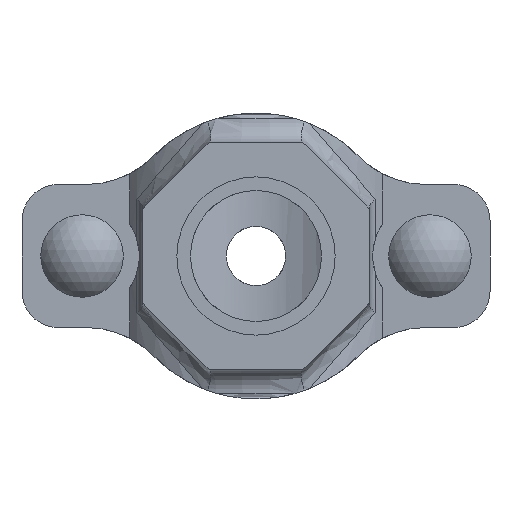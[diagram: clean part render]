
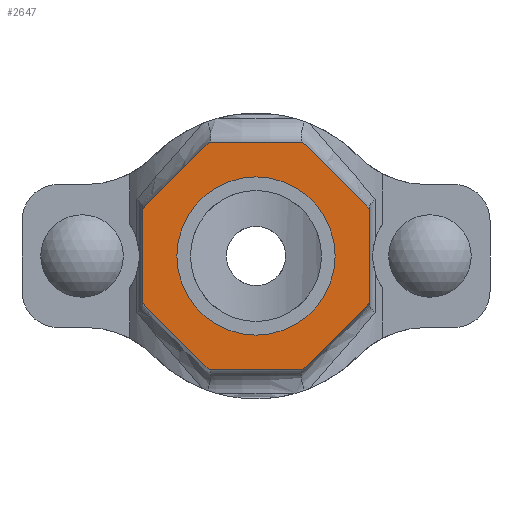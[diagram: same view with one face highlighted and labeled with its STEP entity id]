
A CAD part, front view. The second image highlights one B-rep face of the part: STEP entity #2647.
In plain terms, the highlighted planar face has unit normal (0, -1, 0) as drawn and (0, 1, 0) by its records, which use the part's own axes.
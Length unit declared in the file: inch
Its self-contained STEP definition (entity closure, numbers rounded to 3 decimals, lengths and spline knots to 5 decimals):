
#207=FACE_BOUND('',#488,.T.);
#331=FACE_OUTER_BOUND('',#487,.T.);
#487=EDGE_LOOP('',(#2233,#2234,#2235,#2236,#2237,#2238,#2239,#2240));
#488=EDGE_LOOP('',(#2241));
#628=LINE('',#4905,#816);
#631=LINE('',#4910,#819);
#633=LINE('',#4914,#821);
#635=LINE('',#4918,#823);
#671=LINE('',#5217,#859);
#673=LINE('',#5221,#861);
#675=LINE('',#5225,#863);
#677=LINE('',#5228,#865);
#816=VECTOR('',#3407,0.3937);
#819=VECTOR('',#3412,0.3937);
#821=VECTOR('',#3416,0.3937);
#823=VECTOR('',#3420,0.3937);
#859=VECTOR('',#3550,0.3937);
#861=VECTOR('',#3554,0.3937);
#863=VECTOR('',#3558,0.3937);
#865=VECTOR('',#3562,0.3937);
#952=CIRCLE('',#2917,0.83);
#1151=VERTEX_POINT('',#4902);
#1152=VERTEX_POINT('',#4904);
#1153=VERTEX_POINT('',#4908);
#1154=VERTEX_POINT('',#4912);
#1155=VERTEX_POINT('',#4916);
#1183=VERTEX_POINT('',#5078);
#1205=VERTEX_POINT('',#5216);
#1206=VERTEX_POINT('',#5220);
#1207=VERTEX_POINT('',#5224);
#1479=EDGE_CURVE('',#1152,#1151,#628,.T.);
#1482=EDGE_CURVE('',#1151,#1153,#631,.T.);
#1484=EDGE_CURVE('',#1153,#1154,#633,.T.);
#1486=EDGE_CURVE('',#1154,#1155,#635,.T.);
#1527=EDGE_CURVE('',#1183,#1183,#952,.T.);
#1557=EDGE_CURVE('',#1205,#1152,#671,.T.);
#1559=EDGE_CURVE('',#1206,#1205,#673,.T.);
#1561=EDGE_CURVE('',#1207,#1206,#675,.T.);
#1563=EDGE_CURVE('',#1155,#1207,#677,.T.);
#2233=ORIENTED_EDGE('',*,*,#1563,.T.);
#2234=ORIENTED_EDGE('',*,*,#1561,.T.);
#2235=ORIENTED_EDGE('',*,*,#1559,.T.);
#2236=ORIENTED_EDGE('',*,*,#1557,.T.);
#2237=ORIENTED_EDGE('',*,*,#1479,.T.);
#2238=ORIENTED_EDGE('',*,*,#1482,.T.);
#2239=ORIENTED_EDGE('',*,*,#1484,.T.);
#2240=ORIENTED_EDGE('',*,*,#1486,.T.);
#2241=ORIENTED_EDGE('',*,*,#1527,.T.);
#2378=PLANE('',#2938);
#2647=ADVANCED_FACE('',(#331,#207),#2378,.T.);
#2917=AXIS2_PLACEMENT_3D('',#5079,#3500,#3501);
#2938=AXIS2_PLACEMENT_3D('',#5229,#3563,#3564);
#3407=DIRECTION('',(0.,0.,1.));
#3412=DIRECTION('',(0.707,0.,0.707));
#3416=DIRECTION('',(1.,0.,0.));
#3420=DIRECTION('',(0.707,0.,-0.707));
#3500=DIRECTION('center_axis',(0.,-1.,0.));
#3501=DIRECTION('ref_axis',(-1.,0.,0.));
#3550=DIRECTION('',(-0.707,0.,0.707));
#3554=DIRECTION('',(-1.,0.,0.));
#3558=DIRECTION('',(-0.707,0.,-0.707));
#3562=DIRECTION('',(0.,0.,-1.));
#3563=DIRECTION('center_axis',(0.,1.,0.));
#3564=DIRECTION('ref_axis',(0.,0.,1.));
#4902=CARTESIAN_POINT('',(-1.19,2.75,0.49291));
#4904=CARTESIAN_POINT('',(-1.19,2.75,-0.49291));
#4905=CARTESIAN_POINT('',(-1.19,2.75,0.49291));
#4908=CARTESIAN_POINT('',(-0.49291,2.75,1.19));
#4910=CARTESIAN_POINT('',(-0.49291,2.75,1.19));
#4912=CARTESIAN_POINT('',(0.49291,2.75,1.19));
#4914=CARTESIAN_POINT('',(0.49291,2.75,1.19));
#4916=CARTESIAN_POINT('',(1.19,2.75,0.49291));
#4918=CARTESIAN_POINT('',(1.19,2.75,0.49291));
#5078=CARTESIAN_POINT('',(0.83,2.75,0.));
#5079=CARTESIAN_POINT('Origin',(0.,2.75,0.));
#5216=CARTESIAN_POINT('',(-0.49291,2.75,-1.19));
#5217=CARTESIAN_POINT('',(-1.19,2.75,-0.49291));
#5220=CARTESIAN_POINT('',(0.49291,2.75,-1.19));
#5221=CARTESIAN_POINT('',(-0.49291,2.75,-1.19));
#5224=CARTESIAN_POINT('',(1.19,2.75,-0.49291));
#5225=CARTESIAN_POINT('',(0.49291,2.75,-1.19));
#5228=CARTESIAN_POINT('',(1.19,2.75,-0.49291));
#5229=CARTESIAN_POINT('Origin',(0.,2.75,0.));
